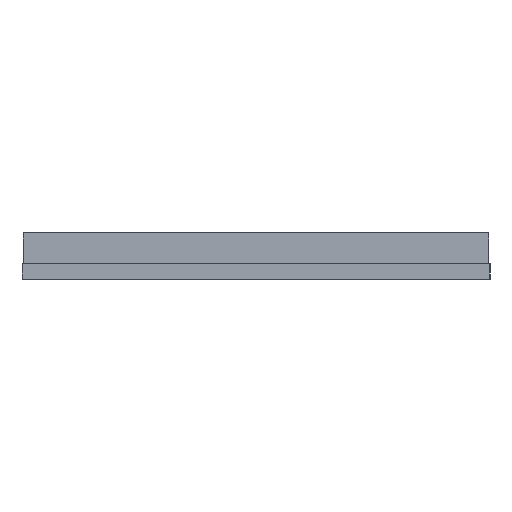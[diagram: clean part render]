
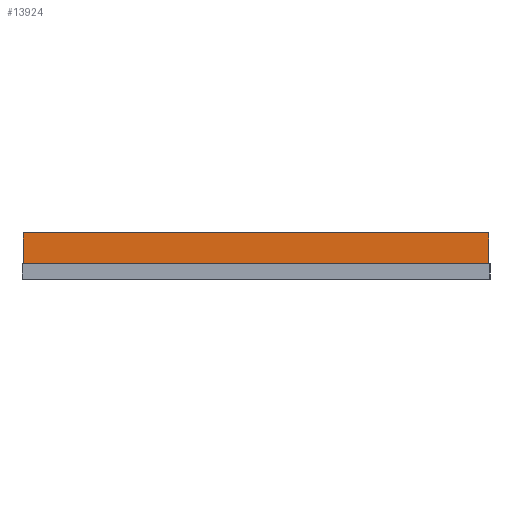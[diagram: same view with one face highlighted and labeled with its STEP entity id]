
A CAD part, left-side view. The second image highlights one B-rep face of the part: STEP entity #13924.
In plain terms, the highlighted planar face has unit normal (-1, 0, 0).
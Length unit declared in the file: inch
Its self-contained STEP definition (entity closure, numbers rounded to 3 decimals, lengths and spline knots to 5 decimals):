
#192 = VECTOR ( 'NONE', #42885, 39.37008 ) ;
#193 = LINE ( 'NONE', #42851, #192 ) ;
#11401 = CARTESIAN_POINT ( 'NONE',  ( -0.01575, 6.01575, 8.92982 ) ) ;
#11419 = DIRECTION ( 'NONE',  ( 1., 0., 0. ) ) ;
#11438 = DIRECTION ( 'NONE',  ( 0., 0., -1. ) ) ;
#13769 = EDGE_CURVE ( 'NONE', #40708, #42430, #42934, .T. ) ;
#13790 = EDGE_CURVE ( 'NONE', #42428, #42430, #31118, .T. ) ;
#13806 = EDGE_CURVE ( 'NONE', #40704, #42428, #30868, .T. ) ;
#13924 = ADVANCED_FACE ( 'NONE', ( #42558 ), #25505, .F. ) ;
#23372 = DIRECTION ( 'NONE',  ( 0., 0., -1. ) ) ;
#23377 = CARTESIAN_POINT ( 'NONE',  ( -0.01575, -0.01575, 8.92982 ) ) ;
#25505 = PLANE ( 'NONE',  #43052 ) ;
#28690 = CARTESIAN_POINT ( 'NONE',  ( -0.01575, -0.01575, 0.4 ) ) ;
#28710 = CARTESIAN_POINT ( 'NONE',  ( -0.01575, 6.01575, 0.4 ) ) ;
#30823 = VECTOR ( 'NONE', #44847, 39.37008 ) ;
#30868 = LINE ( 'NONE', #44882, #30823 ) ;
#31113 = VECTOR ( 'NONE', #37771, 39.37008 ) ;
#31118 = LINE ( 'NONE', #37741, #31113 ) ;
#33799 = CARTESIAN_POINT ( 'NONE',  ( -0.01575, 6.01575, 0. ) ) ;
#33813 = CARTESIAN_POINT ( 'NONE',  ( -0.01575, -0.01575, 0. ) ) ;
#37741 = CARTESIAN_POINT ( 'NONE',  ( -0.01575, 6.01575, 0. ) ) ;
#37771 = DIRECTION ( 'NONE',  ( 0., -1., 0. ) ) ;
#40704 = VERTEX_POINT ( 'NONE', #28710 ) ;
#40708 = VERTEX_POINT ( 'NONE', #28690 ) ;
#41099 = ORIENTED_EDGE ( 'NONE', *, *, #13790, .T. ) ;
#41100 = ORIENTED_EDGE ( 'NONE', *, *, #13769, .F. ) ;
#41103 = ORIENTED_EDGE ( 'NONE', *, *, #13806, .T. ) ;
#41129 = ORIENTED_EDGE ( 'NONE', *, *, #43378, .T. ) ;
#41797 = EDGE_LOOP ( 'NONE', ( #41100, #41129, #41103, #41099 ) ) ;
#42428 = VERTEX_POINT ( 'NONE', #33799 ) ;
#42430 = VERTEX_POINT ( 'NONE', #33813 ) ;
#42558 = FACE_OUTER_BOUND ( 'NONE', #41797, .T. ) ;
#42851 = CARTESIAN_POINT ( 'NONE',  ( -0.01575, 6.01575, 0.4 ) ) ;
#42885 = DIRECTION ( 'NONE',  ( 0., 1., 0. ) ) ;
#42934 = LINE ( 'NONE', #23377, #42960 ) ;
#42960 = VECTOR ( 'NONE', #23372, 39.37008 ) ;
#43052 = AXIS2_PLACEMENT_3D ( 'NONE', #11401, #11419, #11438 ) ;
#43378 = EDGE_CURVE ( 'NONE', #40708, #40704, #193, .T. ) ;
#44847 = DIRECTION ( 'NONE',  ( 0., 0., -1. ) ) ;
#44882 = CARTESIAN_POINT ( 'NONE',  ( -0.01575, 6.01575, 8.92982 ) ) ;
